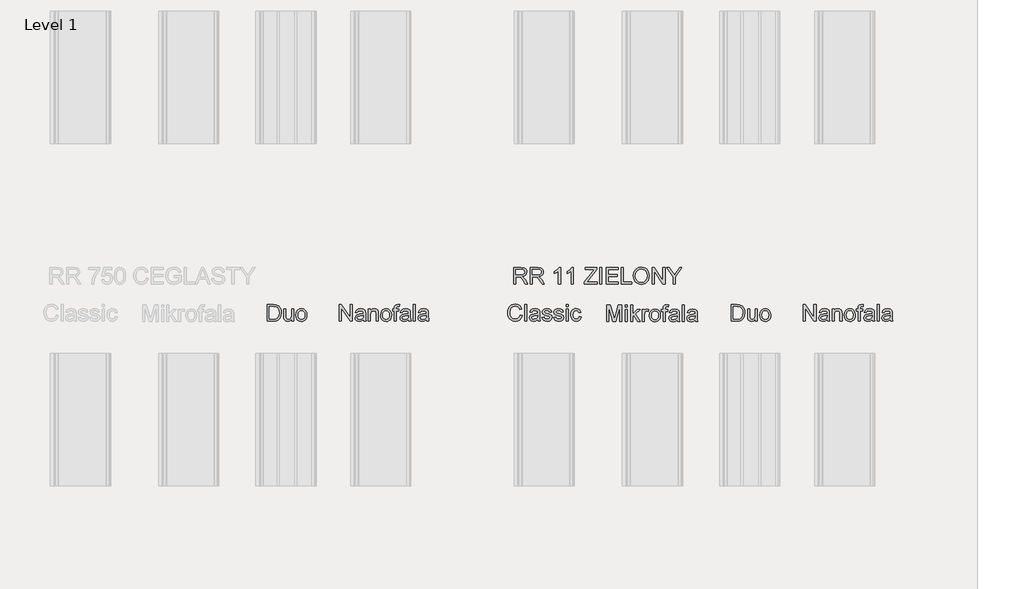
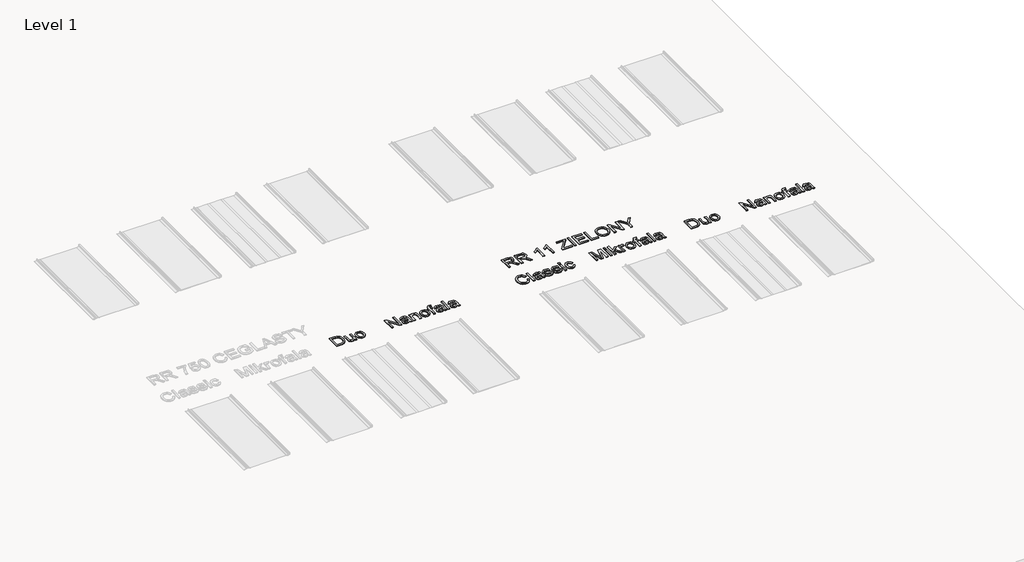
# One storey, part 14 of 22: 7 proxies.
"""IFC4 building model written with IfcOpenShell, lengths in millimetres."""

import ifcopenshell
import ifcopenshell.guid

model = None  # the IFC model being written
_history = None  # IfcOwnerHistory: only IFC2X3 demands one
_inside = {}  # id of a spatial element -> (the spatial element, [elements in it])
_under = {}  # id of a project, library or spatial element -> (it, [spatial elements below it])
_declared = {}  # id of a project -> (the project, [libraries it declares])
_typed = {}  # id of a type object -> (the type object, [elements of that type])
_made_of = {}  # id of a material, layer set ... -> (it, [elements and type objects made of it])


def new_model(schema):
    """Start an empty IFC model of exactly this schema.

    Asked for "IFC4X3", IfcOpenShell would pick the latest addendum, in which some entities
    have other attributes; the version numbers below select the first issue.
    IFC2X3 requires an IfcOwnerHistory on every rooted entity: one is made here for all.
    """
    global model, _history
    if schema == "IFC4X3":
        model = ifcopenshell.file(schema_version=(4, 3, 0, 0))
    else:
        model = ifcopenshell.file(schema=schema)
    _inside.clear()
    _under.clear()
    _declared.clear()
    _typed.clear()
    _made_of.clear()
    _history = None
    if model.schema == "IFC2X3":
        org = make("IfcOrganization", Name="unknown")
        user = make(
            "IfcPersonAndOrganization",
            ThePerson=make("IfcPerson", FamilyName="unknown"),
            TheOrganization=org,
        )
        app = make(
            "IfcApplication",
            ApplicationDeveloper=org,
            Version="unknown",
            ApplicationFullName="unknown",
            ApplicationIdentifier="unknown",
        )
        _history = make(
            "IfcOwnerHistory",
            OwningUser=user,
            OwningApplication=app,
            ChangeAction="ADDED",
            CreationDate=0,
        )
    return model


def make(cls, **values):
    """One entity of the class cls with the attributes given. An attribute that is None is left unset."""
    return model.create_entity(
        cls, **{name: value for name, value in values.items() if value is not None}
    )


def rooted(cls, **values):
    """An entity with a GlobalId (a new one), such as an element, a storey or a relation."""
    return make(cls, GlobalId=ifcopenshell.guid.new(), OwnerHistory=_history, **values)


def si_unit(unit_type, name, prefix=None):
    """IfcSIUnit, for example si_unit("LENGTHUNIT", "METRE", prefix="MILLI")."""
    return make("IfcSIUnit", UnitType=unit_type, Prefix=prefix, Name=name)


def assignment(units):
    """IfcUnitAssignment: the units of a project."""
    return None if units is None else make("IfcUnitAssignment", Units=units)


def point(xyz):
    """IfcCartesianPoint."""
    return None if xyz is None else make("IfcCartesianPoint", Coordinates=xyz)


def direction(xyz):
    """IfcDirection."""
    return None if xyz is None else make("IfcDirection", DirectionRatios=xyz)


def frame(location, z_axis=None, x_axis=None):
    """IfcAxis2Placement3D, a coordinate frame: its origin and axes. An axis left out is left unset."""
    return make(
        "IfcAxis2Placement3D",
        Location=point(location),
        Axis=direction(z_axis),
        RefDirection=direction(x_axis),
    )


def origin():
    """The frame at (0, 0, 0) with its axes left unset."""
    return frame((0.0, 0.0, 0.0))


def place(relative_to, where):
    """IfcLocalPlacement: puts the frame where relative to a parent placement (None: the world)."""
    return make(
        "IfcLocalPlacement", PlacementRelTo=relative_to, RelativePlacement=where
    )


def context(
    kind, dimensions, precision=None, world=None, true_north=None, identifier=None
):
    """IfcGeometricRepresentationContext, for example the 3D "Model" context."""
    return make(
        "IfcGeometricRepresentationContext",
        ContextIdentifier=identifier,
        ContextType=kind,
        CoordinateSpaceDimension=dimensions,
        Precision=precision,
        WorldCoordinateSystem=world,
        TrueNorth=true_north,
    )


def project(units=None, contexts=None):
    """IfcProject with its units and contexts."""
    return rooted(
        "IfcProject",
        Name="project",
        RepresentationContexts=contexts,
        UnitsInContext=assignment(units),
    )


def spatial(cls, under=None, at=None, **own):
    """A site, building, storey or space (cls), placed at a placement, below another one or the project."""
    s = rooted(cls, ObjectPlacement=at, **own)
    if under is not None:
        _under.setdefault(under.id(), (under, []))[1].append(s)
    return s


def polyline(points):
    """IfcPolyline through the points."""
    return make("IfcPolyline", Points=[point(p) for p in points])


def outline(outer, holes=None, kind="AREA"):
    """IfcArbitraryClosedProfileDef: a profile drawn as a closed curve; with holes, ...WithVoids."""
    if holes is None:
        return make("IfcArbitraryClosedProfileDef", ProfileType=kind, OuterCurve=outer)
    return make(
        "IfcArbitraryProfileDefWithVoids",
        ProfileType=kind,
        OuterCurve=outer,
        InnerCurves=holes,
    )


def extrude(swept, where, along, depth):
    """IfcExtrudedAreaSolid: the profile swept, set in the frame where, extruded along a direction by depth."""
    return make(
        "IfcExtrudedAreaSolid",
        SweptArea=swept,
        Position=where,
        ExtrudedDirection=direction(along),
        Depth=depth,
    )


def shape(context_of_items, identifier, shape_type, items):
    """IfcShapeRepresentation: the items that make up one representation, for example the "Body"."""
    return make(
        "IfcShapeRepresentation",
        ContextOfItems=context_of_items,
        RepresentationIdentifier=identifier,
        RepresentationType=shape_type,
        Items=items,
    )


def made_of(thing, what):
    """Note that an element or type object is made of a material, layer set ...; save() writes the relation."""
    if what is not None:
        _made_of.setdefault(what.id(), (what, []))[1].append(thing)
    return thing


def element(
    cls,
    number,
    at=None,
    inside=None,
    cuts=None,
    type_object=None,
    material=None,
    context=None,
    identifier="Body",
    shape_type=None,
    held_by="IfcProductDefinitionShape",
    body=None,
    shapes=None,
    **own,
):
    """One element of the class cls, such as IfcWall. Its Tag is "e" and its number.

    at: its placement. inside: the storey or other place that contains it. cuts: it is an
    opening in that element (IfcRelVoidsElement). A single representation is given by context,
    identifier, shape_type and body (its items); several are given by shapes. held_by: the class
    of the entity that holds the representations. save() writes the other relations.
    """
    e = rooted(cls, Tag="e%d" % number, ObjectPlacement=at, **own)
    if body is not None:
        shapes = [shape(context, identifier, shape_type, body)]
    if shapes is not None:
        e.Representation = make(held_by, Representations=shapes)
    if inside is not None:
        _inside.setdefault(inside.id(), (inside, []))[1].append(e)
    if cuts is not None:
        rooted(
            "IfcRelVoidsElement", RelatingBuildingElement=cuts, RelatedOpeningElement=e
        )
    if type_object is not None:
        _typed.setdefault(type_object.id(), (type_object, []))[1].append(e)
    return made_of(e, material)


def aggregate(whole, parts):
    """IfcRelAggregates: a whole, such as a stair, and the parts it consists of."""
    return rooted("IfcRelAggregates", RelatingObject=whole, RelatedObjects=parts)


def save(model, path):
    """Write the relations noted so far, then the file.

    IfcRelAggregates (storeys below a building ...), IfcRelContainedInSpatialStructure (elements
    in a storey), IfcRelDefinesByType, IfcRelAssociatesMaterial and IfcRelDeclares: one each for
    every whole, place, type object, material and project.
    """
    for whole, parts in _under.values():
        aggregate(whole, parts)
    for where, things in _inside.values():
        rooted(
            "IfcRelContainedInSpatialStructure",
            RelatedElements=things,
            RelatingStructure=where,
        )
    for kind, things in _typed.values():
        rooted("IfcRelDefinesByType", RelatedObjects=things, RelatingType=kind)
    for what, things in _made_of.values():
        rooted("IfcRelAssociatesMaterial", RelatedObjects=things, RelatingMaterial=what)
    for by, libraries in _declared.values():
        rooted("IfcRelDeclares", RelatingContext=by, RelatedDefinitions=libraries)
    model.write(path)


model = new_model("IFC4")

# Units and contexts
model_context = context("Model", 3, world=origin())
ifc_project = project(units=[si_unit("LENGTHUNIT", "METRE", prefix="MILLI")], contexts=[model_context])

# Site, building, storey
site = spatial("IfcSite", under=ifc_project)
building = spatial("IfcBuilding", under=site)
storey = spatial("IfcBuildingStorey", under=building, Name="Level 1", Elevation=0.0)

# Proxies
placement = place(None, origin())
element("IfcBuildingElementProxy", 1, Name="150", ObjectType="150", at=placement, inside=storey, context=model_context, shape_type="SweptSolid", body=[
    extrude(outline(polyline([(1632.4192925, -5072.1592468), (1632.4192925, -4921.4747816), (1684.4010184, -4921.4747816), (1711.2931923, -4923.6452853), (1733.4396884, -4934.4242278), (1743.8599459, -4945.902146), (1751.2819651, -4960.1759675), (1755.7241402, -4976.9697805), (1757.2048653, -4996.0076738), (1753.1949515, -5026.4131207), (1742.8942557, -5048.3572817), (1729.135469, -5062.0240978), (1711.1276454, -5069.5840728), (1686.902616, -5072.1592468), (1632.4192925, -5072.1592468)]), holes=[polyline([(1651.2548507, -5053.3236886), (1684.5849594, -5053.3236886), (1708.8283829, -5050.6013619), (1722.8078987, -5042.9126282), (1734.2674229, -5024.2058287), (1738.3693071, -4995.7133682), (1736.3597517, -4975.1855529), (1730.3310855, -4960.0288147), (1721.4237427, -4949.6177542), (1710.7781575, -4943.3269721), (1684.0699246, -4940.3103397), (1651.2548507, -4940.3103397), (1651.2548507, -5053.3236886)])]), frame((0.0, 0.0, 600.0), z_axis=(0.0, 0.0, 1.0), x_axis=(1.0, 0.0, 0.0)), (0.0, 0.0, 1.0), 10.0),
    extrude(outline(polyline([(1851.382656, -5072.1592468), (1851.382656, -5053.1397476), (1836.630588, -5069.1702056), (1817.3903597, -5074.5136916), (1799.6768416, -5070.7612952), (1787.4631594, -5061.3435161), (1781.8529589, -5047.4743649), (1780.749313, -5029.9631819), (1780.749313, -4961.5003426), (1799.5848711, -4961.5003426), (1799.5848711, -5021.0972259), (1800.7253053, -5040.300666), (1808.1749157, -5051.5762492), (1822.2096138, -5055.6781334), (1837.9365691, -5051.4842787), (1848.3292355, -5040.0615427), (1851.382656, -5019.0738749), (1851.382656, -4961.5003426), (1870.2182142, -4961.5003426), (1870.2182142, -5072.1592468), (1851.382656, -5072.1592468)])), frame((0.0, 0.0, 600.0), z_axis=(0.0, 0.0, 1.0), x_axis=(1.0, 0.0, 0.0)), (0.0, 0.0, 1.0), 10.0),
    extrude(outline(polyline([(1891.4082171, -5016.8297947), (1895.4825102, -4990.149153), (1907.7053895, -4971.3963683), (1922.8069454, -4962.2085155), (1940.8883455, -4959.1458979), (1960.6757983, -4962.8753016), (1976.4809285, -4974.0635128), (1986.8414052, -4991.8276146), (1990.2948974, -5015.2846903), (1988.7681871, -5034.3133865), (1984.1880563, -5048.7987401), (1976.6878621, -5059.6466604), (1966.4009618, -5067.7630569), (1954.1826811, -5072.8260329), (1940.8883455, -5074.5136916), (1920.8617693, -5070.7980834), (1905.0750332, -5059.651259), (1894.8249211, -5041.5146766), (1891.4082171, -5016.8297947)]), holes=[polyline([(1910.2437753, -5016.7930065), (1912.4234761, -5033.8397385), (1918.9625785, -5045.9844428), (1928.8034219, -5053.2547108), (1940.8883455, -5055.6781334), (1952.9180867, -5053.2409152), (1962.740536, -5045.9292605), (1969.2796384, -5033.6236078), (1971.4593393, -5016.2043953), (1969.2658429, -4999.6543041), (1962.6853537, -4987.6751466), (1952.8491088, -4980.4048787), (1940.8883455, -4977.981456), (1928.8034219, -4980.3956816), (1918.9625785, -4987.6383584), (1912.4234761, -4999.7554716), (1910.2437753, -5016.7930065)])]), frame((0.0, 0.0, 600.0), z_axis=(0.0, 0.0, 1.0), x_axis=(1.0, 0.0, 0.0)), (0.0, 0.0, 1.0), 10.0),
])
element("IfcBuildingElementProxy", 2, Name="150", ObjectType="150", at=placement, inside=storey, context=model_context, shape_type="SweptSolid", body=[
    extrude(outline(polyline([(3920.9914008, -5017.1818641), (3939.8269589, -5022.0379064), (3931.1357468, -5043.986666), (3917.4965218, -5060.0217224), (3899.5806686, -5069.8303761), (3878.0595719, -5073.0999274), (3856.2119799, -5070.6259209), (3838.8617453, -5063.2039017), (3825.5628112, -5051.091387), (3815.8691206, -5034.5458943), (3809.950819, -5015.0941338), (3807.9780518, -4994.2628158), (3810.2083364, -4972.2910636), (3816.8991902, -4953.3175497), (3827.7011253, -4937.9446809), (3842.2646538, -4926.7748638), (3859.5367135, -4919.9736454), (3878.4642421, -4917.7065726), (3899.1162176, -4920.6404315), (3916.1905407, -4929.4420082), (3929.1537825, -4943.5686769), (3937.4725141, -4962.4778114), (3918.636956, -4966.9659718), (3912.1070506, -4953.2301778), (3903.1859122, -4943.8078002), (3891.7631762, -4938.3585481), (3877.7284781, -4936.5421308), (3861.5508674, -4938.5562847), (3848.2611303, -4944.5987464), (3838.1765651, -4954.0349196), (3831.61447, -4966.2302078), (3826.81361, -4994.2260276), (3828.2345542, -5011.626846), (3832.4973868, -5026.6732196), (3839.7630562, -5038.7903328), (3850.1925108, -5047.40337), (3862.6959001, -5052.5491194), (3876.1833737, -5054.2643692), (3891.9057305, -5051.9283185), (3905.0069281, -5044.9201665), (3914.8983552, -5033.3134896), (3920.9914008, -5017.1818641)])), frame((0.0, 0.0, 600.0), z_axis=(0.0, 0.0, 1.0), x_axis=(1.0, 0.0, 0.0)), (0.0, 0.0, 1.0), 10.0),
    extrude(outline(polyline([(3963.3714066, -5070.7454826), (3963.3714066, -4920.0610174), (3982.2069648, -4920.0610174), (3982.2069648, -5070.7454826), (3963.3714066, -5070.7454826)])), frame((0.0, 0.0, 600.0), z_axis=(0.0, 0.0, 1.0), x_axis=(1.0, 0.0, 0.0)), (0.0, 0.0, 1.0), 10.0),
    extrude(outline(polyline([(4081.0936451, -5056.618814), (4062.828304, -5069.3843192), (4042.6499766, -5073.0999274), (4026.9092257, -5070.8650442), (4015.2979502, -5064.1603949), (4008.1380469, -5053.9792607), (4005.7514125, -5041.314923), (4009.356656, -5026.4157022), (4018.8296174, -5015.5999715), (4032.0181869, -5009.419554), (4048.3153593, -5006.5868626), (4080.9832805, -5000.1121395), (4081.0936451, -4995.9182848), (4079.796861, -4987.5121812), (4075.9065089, -4982.0123454), (4067.2060997, -4977.9288552), (4055.084388, -4976.5676918), (4036.0281007, -4980.1913295), (4026.9414154, -4993.0488052), (4008.1058572, -4990.6943604), (4016.2544434, -4972.3002607), (4032.6619804, -4961.5213182), (4057.5124092, -4957.7321337), (4080.339487, -4961.0798598), (4093.2337509, -4969.4859634), (4099.0094982, -4982.2698628), (4099.9292032, -4998.7509761), (4099.9292032, -5022.1850592), (4100.8856964, -5054.9081627), (4104.6380928, -5070.7454826), (4085.8025346, -5070.7454826), (4081.0936451, -5056.618814)]), holes=[polyline([(4081.0936451, -5018.9476977), (4050.7065923, -5024.723445), (4034.5013904, -5027.7768656), (4027.1621446, -5032.7432725), (4024.5869706, -5039.9905478), (4030.197171, -5050.1808791), (4046.6598903, -5054.2643692), (4065.7161777, -5049.7578148), (4078.0034363, -5038.8501136), (4080.9832805, -5024.2819866), (4081.0936451, -5018.9476977)])]), frame((0.0, 0.0, 600.0), z_axis=(0.0, 0.0, 1.0), x_axis=(1.0, 0.0, 0.0)), (0.0, 0.0, 1.0), 10.0),
    extrude(outline(polyline([(4118.7647614, -5037.7832558), (4137.6003195, -5035.4288111), (4140.5709666, -5043.4854268), (4146.3191228, -5049.4083269), (4166.2951151, -5054.2643692), (4185.4985553, -5049.8129971), (4191.7525492, -5039.3651484), (4190.1798537, -5034.5642884), (4185.4617671, -5030.9038625), (4166.0743859, -5025.5327854), (4137.7106841, -5016.3173414), (4125.331455, -5005.5567931), (4121.1192061, -4990.3632666), (4124.5037205, -4976.3285685), (4133.7375586, -4965.6048084), (4145.7121175, -4960.0313961), (4161.9173194, -4957.7321337), (4184.8363677, -4961.4293477), (4199.4044947, -4971.435738), (4205.8792178, -4988.3399157), (4187.0436597, -4990.6943604), (4179.9619313, -4980.3016941), (4163.3888474, -4976.5676918), (4145.3626296, -4980.1361472), (4139.9547643, -4988.4502803), (4142.1988445, -4993.931722), (4149.2253906, -4998.0887885), (4165.4489866, -5002.0987023), (4193.0953185, -5010.9646584), (4205.9344001, -5021.0078368), (4210.5881074, -5037.3785856), (4205.1250597, -5055.4048034), (4189.3613162, -5068.4830083), (4166.0375977, -5073.0999274), (4147.0456897, -5070.8742413), (4133.1857356, -5064.1971831), (4123.9335034, -5053.1423291), (4118.7647614, -5037.7832558)])), frame((0.0, 0.0, 600.0), z_axis=(0.0, 0.0, 1.0), x_axis=(1.0, 0.0, 0.0)), (0.0, 0.0, 1.0), 10.0),
    extrude(outline(polyline([(4224.714776, -5037.7832558), (4243.5503341, -5035.4288111), (4246.5209812, -5043.4854268), (4252.2691374, -5049.4083269), (4272.2451298, -5054.2643692), (4291.4485699, -5049.8129971), (4297.7025638, -5039.3651484), (4296.1298683, -5034.5642884), (4291.4117817, -5030.9038625), (4272.0244006, -5025.5327854), (4243.6606987, -5016.3173414), (4231.2814696, -5005.5567931), (4227.0692207, -4990.3632666), (4230.4537351, -4976.3285685), (4239.6875732, -4965.6048084), (4251.6621321, -4960.0313961), (4267.867334, -4957.7321337), (4290.7863823, -4961.4293477), (4305.3545093, -4971.435738), (4311.8292324, -4988.3399157), (4292.9936743, -4990.6943604), (4285.9119459, -4980.3016941), (4269.338862, -4976.5676918), (4251.3126442, -4980.1361472), (4245.9047789, -4988.4502803), (4248.1488591, -4993.931722), (4255.1754052, -4998.0887885), (4271.3990012, -5002.0987023), (4299.0453331, -5010.9646584), (4311.8844147, -5021.0078368), (4316.538122, -5037.3785856), (4311.0750743, -5055.4048034), (4295.3113309, -5068.4830083), (4271.9876124, -5073.0999274), (4252.9957044, -5070.8742413), (4239.1357502, -5064.1971831), (4229.883518, -5053.1423291), (4224.714776, -5037.7832558)])), frame((0.0, 0.0, 600.0), z_axis=(0.0, 0.0, 1.0), x_axis=(1.0, 0.0, 0.0)), (0.0, 0.0, 1.0), 10.0),
    extrude(outline(polyline([(4337.7281249, -4938.8965755), (4337.7281249, -4920.0610174), (4356.5636831, -4920.0610174), (4356.5636831, -4938.8965755), (4337.7281249, -4938.8965755)])), frame((0.0, 0.0, 600.0), z_axis=(0.0, 0.0, 1.0), x_axis=(1.0, 0.0, 0.0)), (0.0, 0.0, 1.0), 10.0),
    extrude(outline(polyline([(4337.7281249, -5070.7454826), (4337.7281249, -4960.0865784), (4356.5636831, -4960.0865784), (4356.5636831, -5070.7454826), (4337.7281249, -5070.7454826)])), frame((0.0, 0.0, 600.0), z_axis=(0.0, 0.0, 1.0), x_axis=(1.0, 0.0, 0.0)), (0.0, 0.0, 1.0), 10.0),
    extrude(outline(polyline([(4455.4503634, -5030.7199215), (4474.2859215, -5033.0743663), (4469.034406, -5049.8267926), (4459.1659715, -5062.4865318), (4445.60952, -5070.4465785), (4429.2939535, -5073.0999274), (4409.2581803, -5069.3981148), (4393.5910059, -5058.2926771), (4383.4788495, -5040.2710578), (4380.1081307, -5015.8207007), (4381.547469, -4999.0590773), (4385.865484, -4984.532337), (4393.1311534, -4972.8014999), (4403.4134551, -4964.427586), (4415.7145094, -4959.4059968), (4429.0364361, -4957.7321337), (4444.9519309, -4960.0313961), (4457.6760494, -4966.9291836), (4466.8041214, -4978.0576139), (4471.9314767, -4993.0488052), (4453.0959186, -4995.40325), (4444.3587212, -4981.2949755), (4429.1835889, -4976.5676918), (4417.0112934, -4978.8945454), (4407.3497925, -4985.8751063), (4401.0452148, -4997.8864535), (4398.9436889, -5015.3056659), (4400.9992295, -5032.9594032), (4407.1658515, -5045.012137), (4416.6526084, -5051.9513112), (4428.6685541, -5054.2643692), (4438.4220255, -5052.8204324), (4446.4188604, -5048.4886219), (4452.2359944, -5041.1585731), (4455.4503634, -5030.7199215)])), frame((0.0, 0.0, 600.0), z_axis=(0.0, 0.0, 1.0), x_axis=(1.0, 0.0, 0.0)), (0.0, 0.0, 1.0), 10.0),
])
element("IfcBuildingElementProxy", 3, Name="150", ObjectType="150", at=placement, inside=storey, context=model_context, shape_type="SweptSolid", body=[
    extrude(outline(polyline([(4704.3345041, -5075.281387), (4704.3345041, -4924.5969218), (4736.6345432, -4924.5969218), (4767.5366308, -5030.8044538), (4773.7906247, -5052.9877381), (4780.5228653, -5028.9650438), (4810.8363417, -4924.5969218), (4843.2467454, -4924.5969218), (4843.2467454, -5075.281387), (4824.4111873, -5075.281387), (4824.4111873, -4943.4324799), (4786.55613, -5075.281387), (4761.0619077, -5075.281387), (4723.1700622, -4943.4324799), (4723.1700622, -5075.281387), (4704.3345041, -5075.281387)])), frame((0.0, 0.0, 600.0), z_axis=(0.0, 0.0, 1.0), x_axis=(1.0, 0.0, 0.0)), (0.0, 0.0, 1.0), 10.0),
    extrude(outline(polyline([(4873.8545274, -4943.4324799), (4873.8545274, -4924.5969218), (4892.6900856, -4924.5969218), (4892.6900856, -4943.4324799), (4873.8545274, -4943.4324799)])), frame((0.0, 0.0, 600.0), z_axis=(0.0, 0.0, 1.0), x_axis=(1.0, 0.0, 0.0)), (0.0, 0.0, 1.0), 10.0),
    extrude(outline(polyline([(4873.8545274, -5075.281387), (4873.8545274, -4964.6224829), (4892.6900856, -4964.6224829), (4892.6900856, -5075.281387), (4873.8545274, -5075.281387)])), frame((0.0, 0.0, 600.0), z_axis=(0.0, 0.0, 1.0), x_axis=(1.0, 0.0, 0.0)), (0.0, 0.0, 1.0), 10.0),
    extrude(outline(polyline([(4920.9434228, -5075.281387), (4920.9434228, -4924.5969218), (4939.778981, -4924.5969218), (4939.778981, -5005.5677489), (4982.011834, -4964.6224829), (5008.0578793, -4964.6224829), (4965.2732032, -5006.0827837), (5010.412324, -5075.281387), (4988.4129807, -5075.281387), (4951.771934, -5019.1793827), (4939.778981, -5030.841242), (4939.778981, -5075.281387), (4920.9434228, -5075.281387)])), frame((0.0, 0.0, 600.0), z_axis=(0.0, 0.0, 1.0), x_axis=(1.0, 0.0, 0.0)), (0.0, 0.0, 1.0), 10.0),
    extrude(outline(polyline([(5026.8934374, -5075.281387), (5026.8934374, -4964.6224829), (5043.3745508, -4964.6224829), (5043.3745508, -4980.9932316), (5055.0731983, -4965.9100698), (5066.8454221, -4962.2680381), (5085.7545567, -4968.0805736), (5079.4637745, -4984.9663572), (5066.2200227, -4981.1035962), (5055.5698389, -4984.8192044), (5048.7824161, -4995.1199003), (5045.7289956, -5017.1192436), (5045.7289956, -5075.281387), (5026.8934374, -5075.281387)])), frame((0.0, 0.0, 600.0), z_axis=(0.0, 0.0, 1.0), x_axis=(1.0, 0.0, 0.0)), (0.0, 0.0, 1.0), 10.0),
    extrude(outline(polyline([(5092.817891, -5019.9519349), (5096.8921841, -4993.2712932), (5109.1150633, -4974.5185085), (5124.2166192, -4965.3306557), (5142.2980193, -4962.2680381), (5162.0854721, -4965.9974418), (5177.8906023, -4977.185653), (5188.251079, -4994.9497548), (5191.7045713, -5018.4068306), (5190.177861, -5037.4355268), (5185.5977301, -5051.9208803), (5178.097536, -5062.7688007), (5167.8106357, -5070.8851972), (5155.5923549, -5075.9481731), (5142.2980193, -5077.6358318), (5122.2714432, -5073.9202236), (5106.4847071, -5062.7733992), (5096.234595, -5044.6368168), (5092.817891, -5019.9519349)]), holes=[polyline([(5111.6534491, -5019.9151467), (5113.8331499, -5036.9618787), (5120.3722524, -5049.1065831), (5130.2130958, -5056.376851), (5142.2980193, -5058.8002736), (5154.3277606, -5056.3630554), (5164.1502098, -5049.0514008), (5170.6893123, -5036.745748), (5172.8690131, -5019.3265355), (5170.6755167, -5002.7764443), (5164.0950275, -4990.7972868), (5154.2587827, -4983.5270189), (5142.2980193, -4981.1035962), (5130.2130958, -4983.5178218), (5120.3722524, -4990.7604986), (5113.8331499, -5002.8776118), (5111.6534491, -5019.9151467)])]), frame((0.0, 0.0, 600.0), z_axis=(0.0, 0.0, 1.0), x_axis=(1.0, 0.0, 0.0)), (0.0, 0.0, 1.0), 10.0),
    extrude(outline(polyline([(5217.6034637, -5075.281387), (5217.6034637, -4983.458041), (5201.1223503, -4983.458041), (5201.1223503, -4964.6224829), (5217.6034637, -4964.6224829), (5217.6034637, -4953.4756584), (5219.5900265, -4937.7670972), (5229.2285348, -4926.5466964), (5248.2112457, -4922.242477), (5265.3913349, -4924.3026162), (5262.6322199, -4941.960952), (5251.7797011, -4941.0780352), (5239.9155067, -4944.2050321), (5236.4390219, -4955.8668914), (5236.4390219, -4964.6224829), (5257.6290248, -4964.6224829), (5257.6290248, -4983.458041), (5236.4390219, -4983.458041), (5236.4390219, -5075.281387), (5217.6034637, -5075.281387)])), frame((0.0, 0.0, 600.0), z_axis=(0.0, 0.0, 1.0), x_axis=(1.0, 0.0, 0.0)), (0.0, 0.0, 1.0), 10.0),
    extrude(outline(polyline([(5344.7434813, -5061.1547184), (5326.4781402, -5073.9202236), (5306.2998128, -5077.6358318), (5290.5590619, -5075.4009487), (5278.9477864, -5068.6962993), (5271.7878831, -5058.5151651), (5269.4012486, -5045.8508274), (5273.0064922, -5030.9516066), (5282.4794536, -5020.1358759), (5295.6680231, -5013.9554584), (5311.9651955, -5011.1227671), (5344.6331167, -5004.6480439), (5344.7434813, -5000.4541892), (5343.4466972, -4992.0480856), (5339.5563451, -4986.5482498), (5330.8559359, -4982.4647596), (5318.7342242, -4981.1035962), (5299.6779368, -4984.7272339), (5290.5912516, -4997.5847096), (5271.7556934, -4995.2302649), (5279.9042796, -4976.8361651), (5296.3118166, -4966.0572226), (5321.1622454, -4962.2680381), (5343.9893232, -4965.6157643), (5356.8835871, -4974.0218678), (5362.6593344, -4986.8057672), (5363.5790394, -5003.2868806), (5363.5790394, -5026.7209636), (5364.5355326, -5059.4440671), (5368.2879289, -5075.281387), (5349.4523708, -5075.281387), (5344.7434813, -5061.1547184)]), holes=[polyline([(5344.7434813, -5023.4836021), (5314.3564285, -5029.2593494), (5298.1512266, -5032.31277), (5290.8119808, -5037.2791769), (5288.2368068, -5044.5264522), (5293.8470072, -5054.7167835), (5310.3097265, -5058.8002736), (5329.3660139, -5054.2937192), (5341.6532725, -5043.386018), (5344.6331167, -5028.817891), (5344.7434813, -5023.4836021)])]), frame((0.0, 0.0, 600.0), z_axis=(0.0, 0.0, 1.0), x_axis=(1.0, 0.0, 0.0)), (0.0, 0.0, 1.0), 10.0),
    extrude(outline(polyline([(5389.4779319, -5075.281387), (5389.4779319, -4924.5969218), (5408.31349, -4924.5969218), (5408.31349, -5075.281387), (5389.4779319, -5075.281387)])), frame((0.0, 0.0, 600.0), z_axis=(0.0, 0.0, 1.0), x_axis=(1.0, 0.0, 0.0)), (0.0, 0.0, 1.0), 10.0),
    extrude(outline(polyline([(5507.2001703, -5061.1547184), (5488.9348293, -5073.9202236), (5468.7565018, -5077.6358318), (5453.015751, -5075.4009487), (5441.4044755, -5068.6962993), (5434.2445722, -5058.5151651), (5431.8579377, -5045.8508274), (5435.4631813, -5030.9516066), (5444.9361426, -5020.1358759), (5458.1247122, -5013.9554584), (5474.4218846, -5011.1227671), (5507.0898057, -5004.6480439), (5507.2001703, -5000.4541892), (5505.9033863, -4992.0480856), (5502.0130342, -4986.5482498), (5493.312625, -4982.4647596), (5481.1909133, -4981.1035962), (5462.1346259, -4984.7272339), (5453.0479406, -4997.5847096), (5434.2123825, -4995.2302649), (5442.3609687, -4976.8361651), (5458.7685057, -4966.0572226), (5483.6189344, -4962.2680381), (5506.4460122, -4965.6157643), (5519.3402762, -4974.0218678), (5525.1160235, -4986.8057672), (5526.0357285, -5003.2868806), (5526.0357285, -5026.7209636), (5526.9922217, -5059.4440671), (5530.744618, -5075.281387), (5511.9090599, -5075.281387), (5507.2001703, -5061.1547184)]), holes=[polyline([(5507.2001703, -5023.4836021), (5476.8131175, -5029.2593494), (5460.6079156, -5032.31277), (5453.2686698, -5037.2791769), (5450.6934959, -5044.5264522), (5456.3036963, -5054.7167835), (5472.7664156, -5058.8002736), (5491.8227029, -5054.2937192), (5504.1099616, -5043.386018), (5507.0898057, -5028.817891), (5507.2001703, -5023.4836021)])]), frame((0.0, 0.0, 600.0), z_axis=(0.0, 0.0, 1.0), x_axis=(1.0, 0.0, 0.0)), (0.0, 0.0, 1.0), 10.0),
])
element("IfcBuildingElementProxy", 4, Name="150", ObjectType="150", at=placement, inside=storey, context=model_context, shape_type="SweptSolid", body=[
    extrude(outline(polyline([(5832.4192925, -5072.1592468), (5832.4192925, -4921.4747816), (5884.4010184, -4921.4747816), (5911.2931923, -4923.6452853), (5933.4396884, -4934.4242278), (5943.8599459, -4945.902146), (5951.2819651, -4960.1759675), (5955.7241402, -4976.9697805), (5957.2048653, -4996.0076738), (5953.1949515, -5026.4131207), (5942.8942557, -5048.3572817), (5929.135469, -5062.0240978), (5911.1276454, -5069.5840728), (5886.902616, -5072.1592468), (5832.4192925, -5072.1592468)]), holes=[polyline([(5851.2548507, -5053.3236886), (5884.5849594, -5053.3236886), (5908.8283829, -5050.6013619), (5922.8078987, -5042.9126282), (5934.2674229, -5024.2058287), (5938.3693071, -4995.7133682), (5936.3597517, -4975.1855529), (5930.3310855, -4960.0288147), (5921.4237427, -4949.6177542), (5910.7781575, -4943.3269721), (5884.0699246, -4940.3103397), (5851.2548507, -4940.3103397), (5851.2548507, -5053.3236886)])]), frame((0.0, 0.0, 600.0), z_axis=(0.0, 0.0, 1.0), x_axis=(1.0, 0.0, 0.0)), (0.0, 0.0, 1.0), 10.0),
    extrude(outline(polyline([(6051.382656, -5072.1592468), (6051.382656, -5053.1397476), (6036.630588, -5069.1702056), (6017.3903597, -5074.5136916), (5999.6768416, -5070.7612952), (5987.4631594, -5061.3435161), (5981.8529589, -5047.4743649), (5980.749313, -5029.9631819), (5980.749313, -4961.5003426), (5999.5848711, -4961.5003426), (5999.5848711, -5021.0972259), (6000.7253053, -5040.300666), (6008.1749157, -5051.5762492), (6022.2096138, -5055.6781334), (6037.9365691, -5051.4842787), (6048.3292355, -5040.0615427), (6051.382656, -5019.0738749), (6051.382656, -4961.5003426), (6070.2182142, -4961.5003426), (6070.2182142, -5072.1592468), (6051.382656, -5072.1592468)])), frame((0.0, 0.0, 600.0), z_axis=(0.0, 0.0, 1.0), x_axis=(1.0, 0.0, 0.0)), (0.0, 0.0, 1.0), 10.0),
    extrude(outline(polyline([(6091.4082171, -5016.8297947), (6095.4825102, -4990.149153), (6107.7053895, -4971.3963683), (6122.8069454, -4962.2085155), (6140.8883455, -4959.1458979), (6160.6757983, -4962.8753016), (6176.4809285, -4974.0635128), (6186.8414052, -4991.8276146), (6190.2948974, -5015.2846903), (6188.7681871, -5034.3133865), (6184.1880563, -5048.7987401), (6176.6878621, -5059.6466604), (6166.4009618, -5067.7630569), (6154.1826811, -5072.8260329), (6140.8883455, -5074.5136916), (6120.8617693, -5070.7980834), (6105.0750332, -5059.651259), (6094.8249211, -5041.5146766), (6091.4082171, -5016.8297947)]), holes=[polyline([(6110.2437753, -5016.7930065), (6112.4234761, -5033.8397385), (6118.9625785, -5045.9844428), (6128.8034219, -5053.2547108), (6140.8883455, -5055.6781334), (6152.9180867, -5053.2409152), (6162.740536, -5045.9292605), (6169.2796384, -5033.6236078), (6171.4593393, -5016.2043953), (6169.2658429, -4999.6543041), (6162.6853537, -4987.6751466), (6152.8491088, -4980.4048787), (6140.8883455, -4977.981456), (6128.8034219, -4980.3956816), (6118.9625785, -4987.6383584), (6112.4234761, -4999.7554716), (6110.2437753, -5016.7930065)])]), frame((0.0, 0.0, 600.0), z_axis=(0.0, 0.0, 1.0), x_axis=(1.0, 0.0, 0.0)), (0.0, 0.0, 1.0), 10.0),
])
element("IfcBuildingElementProxy", 5, Name="150", ObjectType="150", at=placement, inside=storey, context=model_context, shape_type="SweptSolid", body=[
    extrude(outline(polyline([(2283.2193428, -5072.1592468), (2283.2193428, -4921.4747816), (2303.3792761, -4921.4747816), (2382.1060231, -5040.852489), (2382.1060231, -4921.4747816), (2400.9415812, -4921.4747816), (2400.9415812, -5072.1592468), (2380.7816479, -5072.1592468), (2302.0549009, -4952.7447512), (2302.0549009, -5072.1592468), (2283.2193428, -5072.1592468)])), frame((0.0, 0.0, 600.0), z_axis=(0.0, 0.0, 1.0), x_axis=(1.0, 0.0, 0.0)), (0.0, 0.0, 1.0), 10.0),
    extrude(outline(polyline([(2502.1827063, -5058.0325782), (2483.9173653, -5070.7980834), (2463.7390378, -5074.5136916), (2447.998287, -5072.2788084), (2436.3870115, -5065.5741591), (2429.2271081, -5055.3930249), (2426.8404737, -5042.7286872), (2430.4457173, -5027.8294664), (2439.9186786, -5017.0137357), (2453.1072482, -5010.8333182), (2469.4044205, -5008.0006268), (2502.0723417, -5001.5259037), (2502.1827063, -4997.332049), (2500.8859223, -4988.9259454), (2496.9955702, -4983.4261096), (2488.295161, -4979.3426194), (2476.1734493, -4977.981456), (2457.1171619, -4981.6050937), (2448.0304766, -4994.4625694), (2429.1949185, -4992.1081246), (2437.3435047, -4973.7140249), (2453.7510417, -4962.9350824), (2478.6014704, -4959.1458979), (2501.4285482, -4962.493624), (2514.3228122, -4970.8997276), (2520.0985595, -4983.683627), (2521.0182645, -5000.1647403), (2521.0182645, -5023.5988234), (2521.9747577, -5056.3219269), (2525.727154, -5072.1592468), (2506.8915959, -5072.1592468), (2502.1827063, -5058.0325782)]), holes=[polyline([(2502.1827063, -5020.3614619), (2471.7956535, -5026.1372092), (2455.5904516, -5029.1906298), (2448.2512058, -5034.1570367), (2445.6760319, -5041.404312), (2451.2862323, -5051.5946433), (2467.7489516, -5055.6781334), (2486.8052389, -5051.171579), (2499.0924976, -5040.2638778), (2502.0723417, -5025.6957508), (2502.1827063, -5020.3614619)])]), frame((0.0, 0.0, 600.0), z_axis=(0.0, 0.0, 1.0), x_axis=(1.0, 0.0, 0.0)), (0.0, 0.0, 1.0), 10.0),
    extrude(outline(polyline([(2546.9171569, -5072.1592468), (2546.9171569, -4961.5003426), (2565.7527151, -4961.5003426), (2565.7527151, -4976.9513864), (2580.1552952, -4963.59727), (2599.8185878, -4959.1458979), (2617.6056823, -4962.7327473), (2629.7457881, -4972.1505264), (2635.3927768, -4986.0012835), (2636.3860582, -5004.2114423), (2636.3860582, -5072.1592468), (2617.5505, -5072.1592468), (2617.5505, -5006.749828), (2615.3799962, -4990.0847737), (2607.7096566, -4981.2739999), (2594.7786045, -4977.981456), (2583.7467432, -4979.8300631), (2574.3427597, -4985.3758841), (2567.9002262, -4996.0904472), (2565.7527151, -5013.4452804), (2565.7527151, -5072.1592468), (2546.9171569, -5072.1592468)])), frame((0.0, 0.0, 600.0), z_axis=(0.0, 0.0, 1.0), x_axis=(1.0, 0.0, 0.0)), (0.0, 0.0, 1.0), 10.0),
    extrude(outline(polyline([(2657.5760611, -5016.8297947), (2661.6503542, -4990.149153), (2673.8732335, -4971.3963683), (2688.9747894, -4962.2085155), (2707.0561894, -4959.1458979), (2726.8436422, -4962.8753016), (2742.6487725, -4974.0635128), (2753.0092492, -4991.8276146), (2756.4627414, -5015.2846903), (2754.9360311, -5034.3133865), (2750.3559003, -5048.7987401), (2742.8557061, -5059.6466604), (2732.5688058, -5067.7630569), (2720.350525, -5072.8260329), (2707.0561894, -5074.5136916), (2687.0296133, -5070.7980834), (2671.2428772, -5059.651259), (2660.9927651, -5041.5146766), (2657.5760611, -5016.8297947)]), holes=[polyline([(2676.4116192, -5016.7930065), (2678.5913201, -5033.8397385), (2685.1304225, -5045.9844428), (2694.9712659, -5053.2547108), (2707.0561894, -5055.6781334), (2719.0859307, -5053.2409152), (2728.9083799, -5045.9292605), (2735.4474824, -5033.6236078), (2737.6271832, -5016.2043953), (2735.4336868, -4999.6543041), (2728.8531976, -4987.6751466), (2719.0169528, -4980.4048787), (2707.0561894, -4977.981456), (2694.9712659, -4980.3956816), (2685.1304225, -4987.6383584), (2678.5913201, -4999.7554716), (2676.4116192, -5016.7930065)])]), frame((0.0, 0.0, 600.0), z_axis=(0.0, 0.0, 1.0), x_axis=(1.0, 0.0, 0.0)), (0.0, 0.0, 1.0), 10.0),
    extrude(outline(polyline([(2782.3616338, -5072.1592468), (2782.3616338, -4980.3359008), (2765.8805205, -4980.3359008), (2765.8805205, -4961.5003426), (2782.3616338, -4961.5003426), (2782.3616338, -4950.3535182), (2784.3481966, -4934.644957), (2793.9867049, -4923.4245561), (2812.9694158, -4919.1203368), (2830.149505, -4921.180476), (2827.3903901, -4938.8388117), (2816.5378712, -4937.955895), (2804.6736769, -4941.0828919), (2801.197192, -4952.7447512), (2801.197192, -4961.5003426), (2822.3871949, -4961.5003426), (2822.3871949, -4980.3359008), (2801.197192, -4980.3359008), (2801.197192, -5072.1592468), (2782.3616338, -5072.1592468)])), frame((0.0, 0.0, 600.0), z_axis=(0.0, 0.0, 1.0), x_axis=(1.0, 0.0, 0.0)), (0.0, 0.0, 1.0), 10.0),
    extrude(outline(polyline([(2909.5016514, -5058.0325782), (2891.2363103, -5070.7980834), (2871.0579829, -5074.5136916), (2855.317232, -5072.2788084), (2843.7059565, -5065.5741591), (2836.5460532, -5055.3930249), (2834.1594188, -5042.7286872), (2837.7646623, -5027.8294664), (2847.2376237, -5017.0137357), (2860.4261932, -5010.8333182), (2876.7233656, -5008.0006268), (2909.3912868, -5001.5259037), (2909.5016514, -4997.332049), (2908.2048673, -4988.9259454), (2904.3145152, -4983.4261096), (2895.6141061, -4979.3426194), (2883.4923943, -4977.981456), (2864.436107, -4981.6050937), (2855.3494217, -4994.4625694), (2836.5138635, -4992.1081246), (2844.6624497, -4973.7140249), (2861.0699867, -4962.9350824), (2885.9204155, -4959.1458979), (2908.7474933, -4962.493624), (2921.6417572, -4970.8997276), (2927.4175045, -4983.683627), (2928.3372095, -5000.1647403), (2928.3372095, -5023.5988234), (2929.2937027, -5056.3219269), (2933.0460991, -5072.1592468), (2914.2105409, -5072.1592468), (2909.5016514, -5058.0325782)]), holes=[polyline([(2909.5016514, -5020.3614619), (2879.1145986, -5026.1372092), (2862.9093967, -5029.1906298), (2855.5701509, -5034.1570367), (2852.9949769, -5041.404312), (2858.6051773, -5051.5946433), (2875.0678966, -5055.6781334), (2894.124184, -5051.171579), (2906.4114426, -5040.2638778), (2909.3912868, -5025.6957508), (2909.5016514, -5020.3614619)])]), frame((0.0, 0.0, 600.0), z_axis=(0.0, 0.0, 1.0), x_axis=(1.0, 0.0, 0.0)), (0.0, 0.0, 1.0), 10.0),
    extrude(outline(polyline([(2954.236102, -5072.1592468), (2954.236102, -4921.4747816), (2973.0716601, -4921.4747816), (2973.0716601, -5072.1592468), (2954.236102, -5072.1592468)])), frame((0.0, 0.0, 600.0), z_axis=(0.0, 0.0, 1.0), x_axis=(1.0, 0.0, 0.0)), (0.0, 0.0, 1.0), 10.0),
    extrude(outline(polyline([(3071.9583404, -5058.0325782), (3053.6929994, -5070.7980834), (3033.514672, -5074.5136916), (3017.7739211, -5072.2788084), (3006.1626456, -5065.5741591), (2999.0027423, -5055.3930249), (2996.6161078, -5042.7286872), (3000.2213514, -5027.8294664), (3009.6943128, -5017.0137357), (3022.8828823, -5010.8333182), (3039.1800547, -5008.0006268), (3071.8479758, -5001.5259037), (3071.9583404, -4997.332049), (3070.6615564, -4988.9259454), (3066.7712043, -4983.4261096), (3058.0707951, -4979.3426194), (3045.9490834, -4977.981456), (3026.892796, -4981.6050937), (3017.8061108, -4994.4625694), (2998.9705526, -4992.1081246), (3007.1191388, -4973.7140249), (3023.5266758, -4962.9350824), (3048.3771046, -4959.1458979), (3071.2041824, -4962.493624), (3084.0984463, -4970.8997276), (3089.8741936, -4983.683627), (3090.7938986, -5000.1647403), (3090.7938986, -5023.5988234), (3091.7503918, -5056.3219269), (3095.5027881, -5072.1592468), (3076.66723, -5072.1592468), (3071.9583404, -5058.0325782)]), holes=[polyline([(3071.9583404, -5020.3614619), (3041.5712876, -5026.1372092), (3025.3660858, -5029.1906298), (3018.02684, -5034.1570367), (3015.451666, -5041.404312), (3021.0618664, -5051.5946433), (3037.5245857, -5055.6781334), (3056.580873, -5051.171579), (3068.8681317, -5040.2638778), (3071.8479758, -5025.6957508), (3071.9583404, -5020.3614619)])]), frame((0.0, 0.0, 600.0), z_axis=(0.0, 0.0, 1.0), x_axis=(1.0, 0.0, 0.0)), (0.0, 0.0, 1.0), 10.0),
])
element("IfcBuildingElementProxy", 6, Name="150", ObjectType="150", at=placement, inside=storey, context=model_context, shape_type="SweptSolid", body=[
    extrude(outline(polyline([(6483.2193428, -5072.1592468), (6483.2193428, -4921.4747816), (6503.3792761, -4921.4747816), (6582.1060231, -5040.852489), (6582.1060231, -4921.4747816), (6600.9415812, -4921.4747816), (6600.9415812, -5072.1592468), (6580.7816479, -5072.1592468), (6502.0549009, -4952.7447512), (6502.0549009, -5072.1592468), (6483.2193428, -5072.1592468)])), frame((0.0, 0.0, 600.0), z_axis=(0.0, 0.0, 1.0), x_axis=(1.0, 0.0, 0.0)), (0.0, 0.0, 1.0), 10.0),
    extrude(outline(polyline([(6702.1827063, -5058.0325782), (6683.9173653, -5070.7980834), (6663.7390378, -5074.5136916), (6647.998287, -5072.2788084), (6636.3870115, -5065.5741591), (6629.2271081, -5055.3930249), (6626.8404737, -5042.7286872), (6630.4457173, -5027.8294664), (6639.9186786, -5017.0137357), (6653.1072482, -5010.8333182), (6669.4044205, -5008.0006268), (6702.0723417, -5001.5259037), (6702.1827063, -4997.332049), (6700.8859223, -4988.9259454), (6696.9955702, -4983.4261096), (6688.295161, -4979.3426194), (6676.1734493, -4977.981456), (6657.1171619, -4981.6050937), (6648.0304766, -4994.4625694), (6629.1949185, -4992.1081246), (6637.3435047, -4973.7140249), (6653.7510417, -4962.9350824), (6678.6014704, -4959.1458979), (6701.4285482, -4962.493624), (6714.3228122, -4970.8997276), (6720.0985595, -4983.683627), (6721.0182645, -5000.1647403), (6721.0182645, -5023.5988234), (6721.9747577, -5056.3219269), (6725.727154, -5072.1592468), (6706.8915959, -5072.1592468), (6702.1827063, -5058.0325782)]), holes=[polyline([(6702.1827063, -5020.3614619), (6671.7956535, -5026.1372092), (6655.5904516, -5029.1906298), (6648.2512058, -5034.1570367), (6645.6760319, -5041.404312), (6651.2862323, -5051.5946433), (6667.7489516, -5055.6781334), (6686.8052389, -5051.171579), (6699.0924976, -5040.2638778), (6702.0723417, -5025.6957508), (6702.1827063, -5020.3614619)])]), frame((0.0, 0.0, 600.0), z_axis=(0.0, 0.0, 1.0), x_axis=(1.0, 0.0, 0.0)), (0.0, 0.0, 1.0), 10.0),
    extrude(outline(polyline([(6746.9171569, -5072.1592468), (6746.9171569, -4961.5003426), (6765.7527151, -4961.5003426), (6765.7527151, -4976.9513864), (6780.1552952, -4963.59727), (6799.8185878, -4959.1458979), (6817.6056823, -4962.7327473), (6829.7457881, -4972.1505264), (6835.3927768, -4986.0012835), (6836.3860582, -5004.2114423), (6836.3860582, -5072.1592468), (6817.5505, -5072.1592468), (6817.5505, -5006.749828), (6815.3799962, -4990.0847737), (6807.7096566, -4981.2739999), (6794.7786045, -4977.981456), (6783.7467432, -4979.8300631), (6774.3427597, -4985.3758841), (6767.9002262, -4996.0904472), (6765.7527151, -5013.4452804), (6765.7527151, -5072.1592468), (6746.9171569, -5072.1592468)])), frame((0.0, 0.0, 600.0), z_axis=(0.0, 0.0, 1.0), x_axis=(1.0, 0.0, 0.0)), (0.0, 0.0, 1.0), 10.0),
    extrude(outline(polyline([(6857.5760611, -5016.8297947), (6861.6503542, -4990.149153), (6873.8732335, -4971.3963683), (6888.9747894, -4962.2085155), (6907.0561894, -4959.1458979), (6926.8436422, -4962.8753016), (6942.6487725, -4974.0635128), (6953.0092492, -4991.8276146), (6956.4627414, -5015.2846903), (6954.9360311, -5034.3133865), (6950.3559003, -5048.7987401), (6942.8557061, -5059.6466604), (6932.5688058, -5067.7630569), (6920.350525, -5072.8260329), (6907.0561894, -5074.5136916), (6887.0296133, -5070.7980834), (6871.2428772, -5059.651259), (6860.9927651, -5041.5146766), (6857.5760611, -5016.8297947)]), holes=[polyline([(6876.4116192, -5016.7930065), (6878.5913201, -5033.8397385), (6885.1304225, -5045.9844428), (6894.9712659, -5053.2547108), (6907.0561894, -5055.6781334), (6919.0859307, -5053.2409152), (6928.9083799, -5045.9292605), (6935.4474824, -5033.6236078), (6937.6271832, -5016.2043953), (6935.4336868, -4999.6543041), (6928.8531976, -4987.6751466), (6919.0169528, -4980.4048787), (6907.0561894, -4977.981456), (6894.9712659, -4980.3956816), (6885.1304225, -4987.6383584), (6878.5913201, -4999.7554716), (6876.4116192, -5016.7930065)])]), frame((0.0, 0.0, 600.0), z_axis=(0.0, 0.0, 1.0), x_axis=(1.0, 0.0, 0.0)), (0.0, 0.0, 1.0), 10.0),
    extrude(outline(polyline([(6982.3616338, -5072.1592468), (6982.3616338, -4980.3359008), (6965.8805205, -4980.3359008), (6965.8805205, -4961.5003426), (6982.3616338, -4961.5003426), (6982.3616338, -4950.3535182), (6984.3481966, -4934.644957), (6993.9867049, -4923.4245561), (7012.9694158, -4919.1203368), (7030.149505, -4921.180476), (7027.3903901, -4938.8388117), (7016.5378712, -4937.955895), (7004.6736769, -4941.0828919), (7001.197192, -4952.7447512), (7001.197192, -4961.5003426), (7022.3871949, -4961.5003426), (7022.3871949, -4980.3359008), (7001.197192, -4980.3359008), (7001.197192, -5072.1592468), (6982.3616338, -5072.1592468)])), frame((0.0, 0.0, 600.0), z_axis=(0.0, 0.0, 1.0), x_axis=(1.0, 0.0, 0.0)), (0.0, 0.0, 1.0), 10.0),
    extrude(outline(polyline([(7109.5016514, -5058.0325782), (7091.2363103, -5070.7980834), (7071.0579829, -5074.5136916), (7055.317232, -5072.2788084), (7043.7059565, -5065.5741591), (7036.5460532, -5055.3930249), (7034.1594188, -5042.7286872), (7037.7646623, -5027.8294664), (7047.2376237, -5017.0137357), (7060.4261932, -5010.8333182), (7076.7233656, -5008.0006268), (7109.3912868, -5001.5259037), (7109.5016514, -4997.332049), (7108.2048673, -4988.9259454), (7104.3145152, -4983.4261096), (7095.6141061, -4979.3426194), (7083.4923943, -4977.981456), (7064.436107, -4981.6050937), (7055.3494217, -4994.4625694), (7036.5138635, -4992.1081246), (7044.6624497, -4973.7140249), (7061.0699867, -4962.9350824), (7085.9204155, -4959.1458979), (7108.7474933, -4962.493624), (7121.6417572, -4970.8997276), (7127.4175045, -4983.683627), (7128.3372095, -5000.1647403), (7128.3372095, -5023.5988234), (7129.2937027, -5056.3219269), (7133.0460991, -5072.1592468), (7114.2105409, -5072.1592468), (7109.5016514, -5058.0325782)]), holes=[polyline([(7109.5016514, -5020.3614619), (7079.1145986, -5026.1372092), (7062.9093967, -5029.1906298), (7055.5701509, -5034.1570367), (7052.9949769, -5041.404312), (7058.6051773, -5051.5946433), (7075.0678966, -5055.6781334), (7094.124184, -5051.171579), (7106.4114426, -5040.2638778), (7109.3912868, -5025.6957508), (7109.5016514, -5020.3614619)])]), frame((0.0, 0.0, 600.0), z_axis=(0.0, 0.0, 1.0), x_axis=(1.0, 0.0, 0.0)), (0.0, 0.0, 1.0), 10.0),
    extrude(outline(polyline([(7154.236102, -5072.1592468), (7154.236102, -4921.4747816), (7173.0716601, -4921.4747816), (7173.0716601, -5072.1592468), (7154.236102, -5072.1592468)])), frame((0.0, 0.0, 600.0), z_axis=(0.0, 0.0, 1.0), x_axis=(1.0, 0.0, 0.0)), (0.0, 0.0, 1.0), 10.0),
    extrude(outline(polyline([(7271.9583404, -5058.0325782), (7253.6929994, -5070.7980834), (7233.514672, -5074.5136916), (7217.7739211, -5072.2788084), (7206.1626456, -5065.5741591), (7199.0027423, -5055.3930249), (7196.6161078, -5042.7286872), (7200.2213514, -5027.8294664), (7209.6943128, -5017.0137357), (7222.8828823, -5010.8333182), (7239.1800547, -5008.0006268), (7271.8479758, -5001.5259037), (7271.9583404, -4997.332049), (7270.6615564, -4988.9259454), (7266.7712043, -4983.4261096), (7258.0707951, -4979.3426194), (7245.9490834, -4977.981456), (7226.892796, -4981.6050937), (7217.8061108, -4994.4625694), (7198.9705526, -4992.1081246), (7207.1191388, -4973.7140249), (7223.5266758, -4962.9350824), (7248.3771046, -4959.1458979), (7271.2041824, -4962.493624), (7284.0984463, -4970.8997276), (7289.8741936, -4983.683627), (7290.7938986, -5000.1647403), (7290.7938986, -5023.5988234), (7291.7503918, -5056.3219269), (7295.5027881, -5072.1592468), (7276.66723, -5072.1592468), (7271.9583404, -5058.0325782)]), holes=[polyline([(7271.9583404, -5020.3614619), (7241.5712876, -5026.1372092), (7225.3660858, -5029.1906298), (7218.02684, -5034.1570367), (7215.451666, -5041.404312), (7221.0618664, -5051.5946433), (7237.5245857, -5055.6781334), (7256.580873, -5051.171579), (7268.8681317, -5040.2638778), (7271.8479758, -5025.6957508), (7271.9583404, -5020.3614619)])]), frame((0.0, 0.0, 600.0), z_axis=(0.0, 0.0, 1.0), x_axis=(1.0, 0.0, 0.0)), (0.0, 0.0, 1.0), 10.0),
])
element("IfcBuildingElementProxy", 7, Name="150 Blue", ObjectType="150 Blue", at=placement, inside=storey, context=model_context, shape_type="SweptSolid", body=[
    extrude(outline(polyline([(3863.5881658, -4735.6514112), (3863.5881658, -4584.966946), (3928.5193379, -4584.966946), (3958.6672675, -4589.032042), (3967.9470908, -4594.6606365), (3975.1483808, -4603.416228), (3979.7698984, -4614.2733454), (3981.3104043, -4626.2065176), (3978.7582229, -4641.0505561), (3971.1016789, -4653.3562089), (3958.1108459, -4662.3785148), (3939.5557978, -4667.3725129), (3950.2611639, -4675.4291286), (3965.5282667, -4694.8165097), (3990.6546069, -4735.6514112), (3968.7656282, -4735.6514112), (3949.1575179, -4704.4182298), (3934.9940611, -4683.7432617), (3925.0428531, -4673.9759947), (3916.0849265, -4670.3891452), (3905.1588313, -4669.7269577), (3882.423724, -4669.7269577), (3882.423724, -4735.6514112), (3863.5881658, -4735.6514112)]), holes=[polyline([(3882.423724, -4650.8913995), (3924.5830006, -4650.8913995), (3946.0857032, -4648.224255), (3958.2993855, -4639.6893927), (3962.4748461, -4626.9054934), (3960.4836848, -4617.7176406), (3954.5102009, -4610.3140154), (3944.2324977, -4605.4303819), (3929.3286783, -4603.8025041), (3882.423724, -4603.8025041), (3882.423724, -4650.8913995)])]), frame((0.0, 0.0, 600.0), z_axis=(0.0, 0.0, 1.0), x_axis=(1.0, 0.0, 0.0)), (0.0, 0.0, 1.0), 10.0),
    extrude(outline(polyline([(4014.272631, -4735.6514112), (4014.272631, -4584.966946), (4079.2038032, -4584.966946), (4109.3517327, -4589.032042), (4118.631556, -4594.6606365), (4125.8328461, -4603.416228), (4130.4543636, -4614.2733454), (4131.9948695, -4626.2065176), (4129.4426881, -4641.0505561), (4121.7861441, -4653.3562089), (4108.7953112, -4662.3785148), (4090.240263, -4667.3725129), (4100.9456291, -4675.4291286), (4116.2127319, -4694.8165097), (4141.3390722, -4735.6514112), (4119.4500934, -4735.6514112), (4099.8419831, -4704.4182298), (4085.6785263, -4683.7432617), (4075.7273183, -4673.9759947), (4066.7693917, -4670.3891452), (4055.8432965, -4669.7269577), (4033.1081892, -4669.7269577), (4033.1081892, -4735.6514112), (4014.272631, -4735.6514112)]), holes=[polyline([(4033.1081892, -4650.8913995), (4075.2674658, -4650.8913995), (4096.7701684, -4648.224255), (4108.9838507, -4639.6893927), (4113.1593113, -4626.9054934), (4111.16815, -4617.7176406), (4105.1946661, -4610.3140154), (4094.9169629, -4605.4303819), (4080.0131436, -4603.8025041), (4033.1081892, -4603.8025041), (4033.1081892, -4650.8913995)])]), frame((0.0, 0.0, 600.0), z_axis=(0.0, 0.0, 1.0), x_axis=(1.0, 0.0, 0.0)), (0.0, 0.0, 1.0), 10.0),
    extrude(outline(polyline([(4287.3882242, -4735.6514112), (4268.5526661, -4735.6514112), (4268.5526661, -4618.2234783), (4250.7103893, -4630.9338013), (4230.8815498, -4640.4435508), (4230.8815498, -4622.6380623), (4258.4910935, -4605.0165147), (4275.2481184, -4584.966946), (4287.3882242, -4584.966946), (4287.3882242, -4735.6514112)])), frame((0.0, 0.0, 600.0), z_axis=(0.0, 0.0, 1.0), x_axis=(1.0, 0.0, 0.0)), (0.0, 0.0, 1.0), 10.0),
    extrude(outline(polyline([(4402.7560179, -4735.6514112), (4383.9204598, -4735.6514112), (4383.9204598, -4618.2234783), (4366.078183, -4630.9338013), (4346.2493435, -4640.4435508), (4346.2493435, -4622.6380623), (4373.8588872, -4605.0165147), (4390.6159121, -4584.966946), (4402.7560179, -4584.966946), (4402.7560179, -4735.6514112)])), frame((0.0, 0.0, 600.0), z_axis=(0.0, 0.0, 1.0), x_axis=(1.0, 0.0, 0.0)), (0.0, 0.0, 1.0), 10.0),
    extrude(outline(polyline([(4501.6426982, -4735.6514112), (4501.6426982, -4716.1168772), (4578.677188, -4621.7183573), (4593.3188914, -4603.8025041), (4511.0604773, -4603.8025041), (4511.0604773, -4584.966946), (4617.0104919, -4584.966946), (4617.0104919, -4603.8025041), (4532.6919386, -4707.1037684), (4524.7456875, -4716.815853), (4619.3649367, -4716.815853), (4619.3649367, -4735.6514112), (4501.6426982, -4735.6514112)])), frame((0.0, 0.0, 600.0), z_axis=(0.0, 0.0, 1.0), x_axis=(1.0, 0.0, 0.0)), (0.0, 0.0, 1.0), 10.0),
    extrude(outline(polyline([(4642.9093844, -4735.6514112), (4642.9093844, -4584.966946), (4661.7449425, -4584.966946), (4661.7449425, -4735.6514112), (4642.9093844, -4735.6514112)])), frame((0.0, 0.0, 600.0), z_axis=(0.0, 0.0, 1.0), x_axis=(1.0, 0.0, 0.0)), (0.0, 0.0, 1.0), 10.0),
    extrude(outline(polyline([(4699.4160588, -4735.6514112), (4699.4160588, -4584.966946), (4807.7205182, -4584.966946), (4807.7205182, -4603.8025041), (4718.251617, -4603.8025041), (4718.251617, -4648.5369547), (4803.0116287, -4648.5369547), (4803.0116287, -4667.3725129), (4718.251617, -4667.3725129), (4718.251617, -4716.815853), (4810.074963, -4716.815853), (4810.074963, -4735.6514112), (4699.4160588, -4735.6514112)])), frame((0.0, 0.0, 600.0), z_axis=(0.0, 0.0, 1.0), x_axis=(1.0, 0.0, 0.0)), (0.0, 0.0, 1.0), 10.0),
    extrude(outline(polyline([(4838.3283002, -4735.6514112), (4838.3283002, -4584.966946), (4857.1638584, -4584.966946), (4857.1638584, -4716.815853), (4932.506091, -4716.815853), (4932.506091, -4735.6514112), (4838.3283002, -4735.6514112)])), frame((0.0, 0.0, 600.0), z_axis=(0.0, 0.0, 1.0), x_axis=(1.0, 0.0, 0.0)), (0.0, 0.0, 1.0), 10.0),
    extrude(outline(polyline([(4946.6327596, -4662.2957413), (4951.6543488, -4628.9748296), (4957.9313354, -4615.356298), (4966.7191165, -4603.7657159), (4989.7209383, -4587.9008049), (5018.5536897, -4582.6125012), (5038.3181498, -4585.0957047), (5056.040865, -4592.5453151), (5070.7561448, -4604.4371006), (5081.498299, -4620.2468293), (5088.0649926, -4639.2111462), (5090.2538905, -4660.566696), (5087.9500295, -4682.2073543), (5081.0384465, -4701.4383856), (5069.9008191, -4717.2757055), (5054.9188249, -4728.7352297), (5037.3478611, -4735.6881994), (5018.4433251, -4738.005856), (4998.3753622, -4735.4444776), (4980.5514796, -4727.7603424), (4965.8729879, -4715.6478277), (4955.2411983, -4699.8013108), (4948.7848693, -4681.5681594), (4946.6327596, -4662.2957413)]), holes=[polyline([(4965.4683178, -4662.4796823), (4969.2345097, -4686.0517212), (4980.5330855, -4704.0135596), (4997.5154381, -4715.3811133), (5018.3329605, -4719.1702978), (5039.4539855, -4715.3443251), (5056.4639293, -4703.8664068), (5067.6797316, -4685.3527454), (5071.4183324, -4660.4195432), (5069.8180457, -4643.7452917), (5065.0171856, -4629.3335146), (5057.1399124, -4617.5474952), (5046.3103862, -4608.750517), (5033.2459768, -4603.2736737), (5018.6640543, -4601.4480593), (4998.4029534, -4604.9659309), (4981.1768789, -4615.5195457), (4969.395458, -4634.295323), (4965.4683178, -4662.4796823)])]), frame((0.0, 0.0, 600.0), z_axis=(0.0, 0.0, 1.0), x_axis=(1.0, 0.0, 0.0)), (0.0, 0.0, 1.0), 10.0),
    extrude(outline(polyline([(5116.152783, -4735.6514112), (5116.152783, -4584.966946), (5136.3127163, -4584.966946), (5215.0394633, -4704.3446534), (5215.0394633, -4584.966946), (5233.8750214, -4584.966946), (5233.8750214, -4735.6514112), (5213.7150881, -4735.6514112), (5134.9883411, -4616.2369156), (5134.9883411, -4735.6514112), (5116.152783, -4735.6514112)])), frame((0.0, 0.0, 600.0), z_axis=(0.0, 0.0, 1.0), x_axis=(1.0, 0.0, 0.0)), (0.0, 0.0, 1.0), 10.0),
    extrude(outline(polyline([(5309.217254, -4735.6514112), (5309.217254, -4671.823885), (5250.3561348, -4584.966946), (5272.5394191, -4584.966946), (5303.9565415, -4631.3568656), (5320.0329847, -4655.048466), (5336.1830043, -4629.6646084), (5364.6938589, -4584.966946), (5386.9139314, -4584.966946), (5328.0528122, -4671.823885), (5328.0528122, -4735.6514112), (5309.217254, -4735.6514112)])), frame((0.0, 0.0, 600.0), z_axis=(0.0, 0.0, 1.0), x_axis=(1.0, 0.0, 0.0)), (0.0, 0.0, 1.0), 10.0),
])

save(model, "model.ifc")
